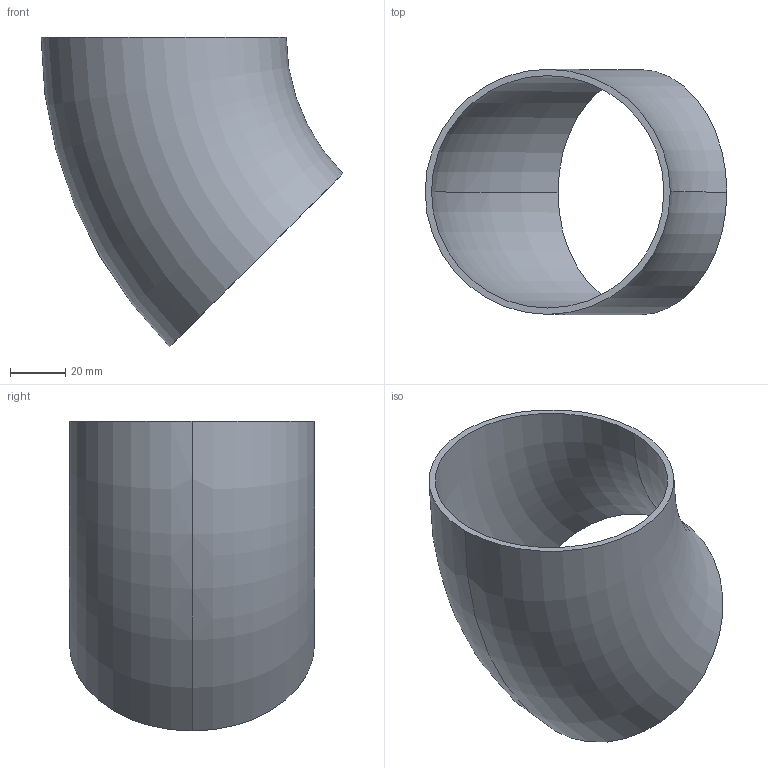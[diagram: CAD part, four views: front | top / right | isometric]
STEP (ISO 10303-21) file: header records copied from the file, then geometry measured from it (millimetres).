
FILE_DESCRIPTION (( 'STEP AP203' ), '1' );
FILE_NAME ('3D_R1650_88.9x2.3_17351460.STEP', '2024-08-03T09:05:07', ( '' ), ( '' ), 'SwSTEP 2.0', 'SolidWorks 2024', '' );
FILE_SCHEMA (( 'CONFIG_CONTROL_DESIGN' ));
Length unit declared in the file: millimetre
Products named in the file (1): 3D_R1650_88.9x2.3_17351460
Bounding box: 109.42 x 88.9 x 112.39 mm (x, y, z)
Volume: 56271.8 mm3; surface area: 50183.5 mm2
Topology: 1 solids, 1 shells, 6 faces, 12 edges, 8 vertices
Faces by surface type: torus 4, plane 2
Entity records: 249 total; most frequent: DIRECTION 38, CARTESIAN_POINT 27, ORIENTED_EDGE 24, AXIS2_PLACEMENT_3D 19, CIRCLE 12, EDGE_CURVE 12, VERTEX_POINT 8, EDGE_LOOP 8
